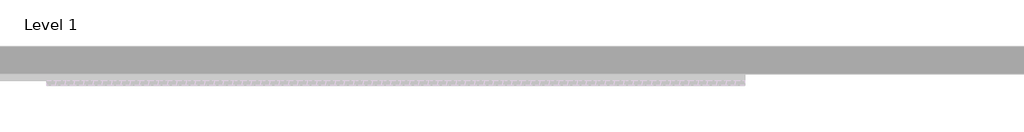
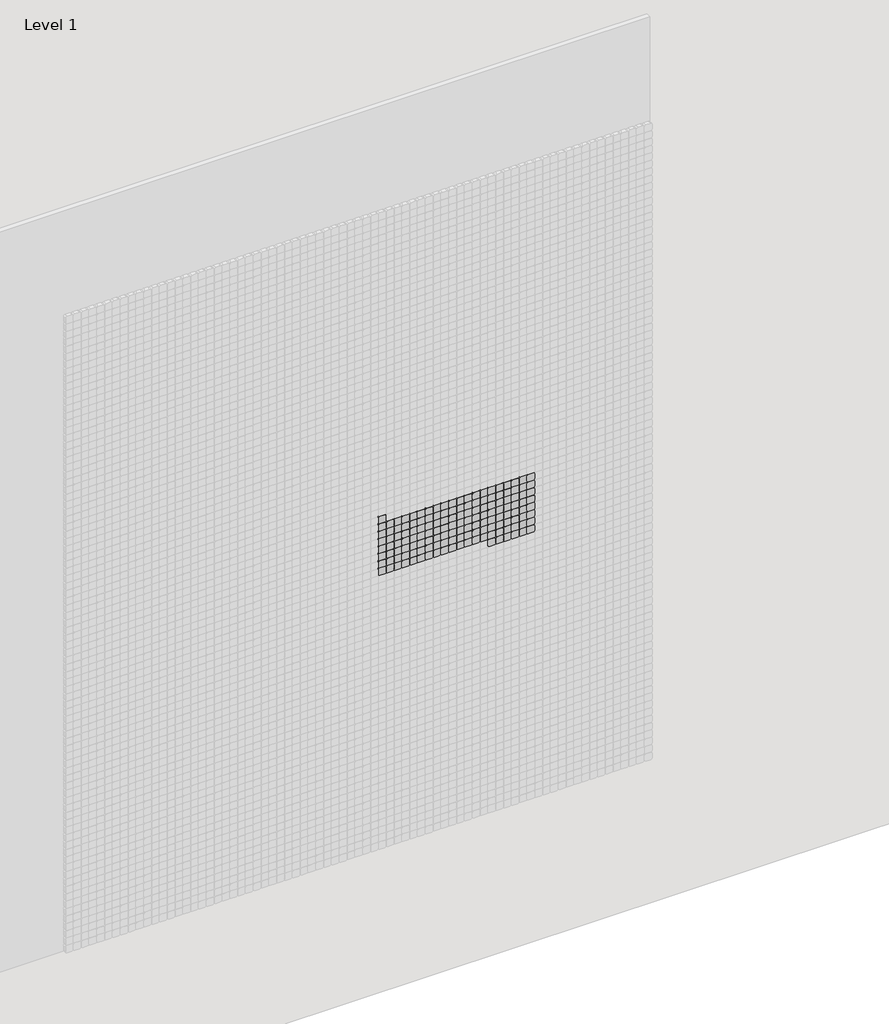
# One storey, part 56 of 71: 147 proxies.
"""IFC4 building model written with IfcOpenShell, lengths in millimetres."""

from ifc_helpers import new_model, si_unit, origin, place, context, project, spatial, transform, mapped, element, save
from components import generic_models_afde289c

model = new_model("IFC4")

# Units and contexts
model_context = context("Model", 3, world=origin())
ifc_project = project(units=[si_unit("LENGTHUNIT", "METRE", prefix="MILLI")], contexts=[model_context])

# Site, building, storey
site = spatial("IfcSite", under=ifc_project)
building = spatial("IfcBuilding", under=site)
storey = spatial("IfcBuildingStorey", under=building, Name="Level 1", Elevation=0.0)

# Proxies
placement = place(None, origin())
generic_models_shape = generic_models_afde289c(model_context)
element("IfcBuildingElementProxy", 1, Name="Pixel_M : Pixel_M", ObjectType="Pixel_M : Pixel_M", at=placement, inside=storey, context=model_context, shape_type="MappedRepresentation", body=[
    mapped(generic_models_shape, transform((8012.4280941, -75.0, 3216.3566215), x_axis=(1.0, 0.0, 0.0), y_axis=(0.0, 0.0, 1.0), z_axis=(0.0, -1.0, 0.0))),
])
element("IfcBuildingElementProxy", 2, Name="Pixel_M : Pixel_M", ObjectType="Pixel_M : Pixel_M", at=placement, inside=storey, context=model_context, shape_type="MappedRepresentation", body=[
    mapped(generic_models_shape, transform((8962.4280941, -75.0, 3166.3566215), x_axis=(1.0, 0.0, 0.0), y_axis=(0.0, 0.0, 1.0), z_axis=(0.0, -1.0, 0.0))),
])
element("IfcBuildingElementProxy", 3, Name="Pixel_M : Pixel_M", ObjectType="Pixel_M : Pixel_M", at=placement, inside=storey, context=model_context, shape_type="MappedRepresentation", body=[
    mapped(generic_models_shape, transform((8912.4280941, -75.0, 3166.3566215), x_axis=(1.0, 0.0, 0.0), y_axis=(0.0, 0.0, 1.0), z_axis=(0.0, -1.0, 0.0))),
])
element("IfcBuildingElementProxy", 4, Name="Pixel_M : Pixel_M", ObjectType="Pixel_M : Pixel_M", at=placement, inside=storey, context=model_context, shape_type="MappedRepresentation", body=[
    mapped(generic_models_shape, transform((8862.4280941, -75.0, 3166.3566215), x_axis=(1.0, 0.0, 0.0), y_axis=(0.0, 0.0, 1.0), z_axis=(0.0, -1.0, 0.0))),
])
element("IfcBuildingElementProxy", 5, Name="Pixel_M : Pixel_M", ObjectType="Pixel_M : Pixel_M", at=placement, inside=storey, context=model_context, shape_type="MappedRepresentation", body=[
    mapped(generic_models_shape, transform((8812.4280941, -75.0, 3166.3566215), x_axis=(1.0, 0.0, 0.0), y_axis=(0.0, 0.0, 1.0), z_axis=(0.0, -1.0, 0.0))),
])
element("IfcBuildingElementProxy", 6, Name="Pixel_M : Pixel_M", ObjectType="Pixel_M : Pixel_M", at=placement, inside=storey, context=model_context, shape_type="MappedRepresentation", body=[
    mapped(generic_models_shape, transform((8762.4280941, -75.0, 3166.3566215), x_axis=(1.0, 0.0, 0.0), y_axis=(0.0, 0.0, 1.0), z_axis=(0.0, -1.0, 0.0))),
])
element("IfcBuildingElementProxy", 7, Name="Pixel_M : Pixel_M", ObjectType="Pixel_M : Pixel_M", at=placement, inside=storey, context=model_context, shape_type="MappedRepresentation", body=[
    mapped(generic_models_shape, transform((8712.4280941, -75.0, 3166.3566215), x_axis=(1.0, 0.0, 0.0), y_axis=(0.0, 0.0, 1.0), z_axis=(0.0, -1.0, 0.0))),
])
element("IfcBuildingElementProxy", 8, Name="Pixel_M : Pixel_M", ObjectType="Pixel_M : Pixel_M", at=placement, inside=storey, context=model_context, shape_type="MappedRepresentation", body=[
    mapped(generic_models_shape, transform((8662.4280941, -75.0, 3166.3566215), x_axis=(1.0, 0.0, 0.0), y_axis=(0.0, 0.0, 1.0), z_axis=(0.0, -1.0, 0.0))),
])
element("IfcBuildingElementProxy", 9, Name="Pixel_M : Pixel_M", ObjectType="Pixel_M : Pixel_M", at=placement, inside=storey, context=model_context, shape_type="MappedRepresentation", body=[
    mapped(generic_models_shape, transform((8612.4280941, -75.0, 3166.3566215), x_axis=(1.0, 0.0, 0.0), y_axis=(0.0, 0.0, 1.0), z_axis=(0.0, -1.0, 0.0))),
])
element("IfcBuildingElementProxy", 10, Name="Pixel_M : Pixel_M", ObjectType="Pixel_M : Pixel_M", at=placement, inside=storey, context=model_context, shape_type="MappedRepresentation", body=[
    mapped(generic_models_shape, transform((8562.4280941, -75.0, 3166.3566215), x_axis=(1.0, 0.0, 0.0), y_axis=(0.0, 0.0, 1.0), z_axis=(0.0, -1.0, 0.0))),
])
element("IfcBuildingElementProxy", 11, Name="Pixel_M : Pixel_M", ObjectType="Pixel_M : Pixel_M", at=placement, inside=storey, context=model_context, shape_type="MappedRepresentation", body=[
    mapped(generic_models_shape, transform((8512.4280941, -75.0, 3166.3566215), x_axis=(1.0, 0.0, 0.0), y_axis=(0.0, 0.0, 1.0), z_axis=(0.0, -1.0, 0.0))),
])
element("IfcBuildingElementProxy", 12, Name="Pixel_M : Pixel_M", ObjectType="Pixel_M : Pixel_M", at=placement, inside=storey, context=model_context, shape_type="MappedRepresentation", body=[
    mapped(generic_models_shape, transform((8462.4280941, -75.0, 3166.3566215), x_axis=(1.0, 0.0, 0.0), y_axis=(0.0, 0.0, 1.0), z_axis=(0.0, -1.0, 0.0))),
])
element("IfcBuildingElementProxy", 13, Name="Pixel_M : Pixel_M", ObjectType="Pixel_M : Pixel_M", at=placement, inside=storey, context=model_context, shape_type="MappedRepresentation", body=[
    mapped(generic_models_shape, transform((8412.4280941, -75.0, 3166.3566215), x_axis=(1.0, 0.0, 0.0), y_axis=(0.0, 0.0, 1.0), z_axis=(0.0, -1.0, 0.0))),
])
element("IfcBuildingElementProxy", 14, Name="Pixel_M : Pixel_M", ObjectType="Pixel_M : Pixel_M", at=placement, inside=storey, context=model_context, shape_type="MappedRepresentation", body=[
    mapped(generic_models_shape, transform((8362.4280941, -75.0, 3166.3566215), x_axis=(1.0, 0.0, 0.0), y_axis=(0.0, 0.0, 1.0), z_axis=(0.0, -1.0, 0.0))),
])
element("IfcBuildingElementProxy", 15, Name="Pixel_M : Pixel_M", ObjectType="Pixel_M : Pixel_M", at=placement, inside=storey, context=model_context, shape_type="MappedRepresentation", body=[
    mapped(generic_models_shape, transform((8312.4280941, -75.0, 3166.3566215), x_axis=(1.0, 0.0, 0.0), y_axis=(0.0, 0.0, 1.0), z_axis=(0.0, -1.0, 0.0))),
])
element("IfcBuildingElementProxy", 16, Name="Pixel_M : Pixel_M", ObjectType="Pixel_M : Pixel_M", at=placement, inside=storey, context=model_context, shape_type="MappedRepresentation", body=[
    mapped(generic_models_shape, transform((8262.4280941, -75.0, 3166.3566215), x_axis=(1.0, 0.0, 0.0), y_axis=(0.0, 0.0, 1.0), z_axis=(0.0, -1.0, 0.0))),
])
element("IfcBuildingElementProxy", 17, Name="Pixel_M : Pixel_M", ObjectType="Pixel_M : Pixel_M", at=placement, inside=storey, context=model_context, shape_type="MappedRepresentation", body=[
    mapped(generic_models_shape, transform((8212.4280941, -75.0, 3166.3566215), x_axis=(1.0, 0.0, 0.0), y_axis=(0.0, 0.0, 1.0), z_axis=(0.0, -1.0, 0.0))),
])
element("IfcBuildingElementProxy", 18, Name="Pixel_M : Pixel_M", ObjectType="Pixel_M : Pixel_M", at=placement, inside=storey, context=model_context, shape_type="MappedRepresentation", body=[
    mapped(generic_models_shape, transform((8162.4280941, -75.0, 3166.3566215), x_axis=(1.0, 0.0, 0.0), y_axis=(0.0, 0.0, 1.0), z_axis=(0.0, -1.0, 0.0))),
])
element("IfcBuildingElementProxy", 19, Name="Pixel_M : Pixel_M", ObjectType="Pixel_M : Pixel_M", at=placement, inside=storey, context=model_context, shape_type="MappedRepresentation", body=[
    mapped(generic_models_shape, transform((8112.4280941, -75.0, 3166.3566215), x_axis=(1.0, 0.0, 0.0), y_axis=(0.0, 0.0, 1.0), z_axis=(0.0, -1.0, 0.0))),
])
element("IfcBuildingElementProxy", 20, Name="Pixel_M : Pixel_M", ObjectType="Pixel_M : Pixel_M", at=placement, inside=storey, context=model_context, shape_type="MappedRepresentation", body=[
    mapped(generic_models_shape, transform((8062.4280941, -75.0, 3166.3566215), x_axis=(1.0, 0.0, 0.0), y_axis=(0.0, 0.0, 1.0), z_axis=(0.0, -1.0, 0.0))),
])
element("IfcBuildingElementProxy", 21, Name="Pixel_M : Pixel_M", ObjectType="Pixel_M : Pixel_M", at=placement, inside=storey, context=model_context, shape_type="MappedRepresentation", body=[
    mapped(generic_models_shape, transform((8012.4280941, -75.0, 3166.3566215), x_axis=(1.0, 0.0, 0.0), y_axis=(0.0, 0.0, 1.0), z_axis=(0.0, -1.0, 0.0))),
])
element("IfcBuildingElementProxy", 22, Name="Pixel_M : Pixel_M", ObjectType="Pixel_M : Pixel_M", at=placement, inside=storey, context=model_context, shape_type="MappedRepresentation", body=[
    mapped(generic_models_shape, transform((8962.4280941, -75.0, 3116.3566215), x_axis=(1.0, 0.0, 0.0), y_axis=(0.0, 0.0, 1.0), z_axis=(0.0, -1.0, 0.0))),
])
element("IfcBuildingElementProxy", 23, Name="Pixel_M : Pixel_M", ObjectType="Pixel_M : Pixel_M", at=placement, inside=storey, context=model_context, shape_type="MappedRepresentation", body=[
    mapped(generic_models_shape, transform((8912.4280941, -75.0, 3116.3566215), x_axis=(1.0, 0.0, 0.0), y_axis=(0.0, 0.0, 1.0), z_axis=(0.0, -1.0, 0.0))),
])
element("IfcBuildingElementProxy", 24, Name="Pixel_M : Pixel_M", ObjectType="Pixel_M : Pixel_M", at=placement, inside=storey, context=model_context, shape_type="MappedRepresentation", body=[
    mapped(generic_models_shape, transform((8862.4280941, -75.0, 3116.3566215), x_axis=(1.0, 0.0, 0.0), y_axis=(0.0, 0.0, 1.0), z_axis=(0.0, -1.0, 0.0))),
])
element("IfcBuildingElementProxy", 25, Name="Pixel_M : Pixel_M", ObjectType="Pixel_M : Pixel_M", at=placement, inside=storey, context=model_context, shape_type="MappedRepresentation", body=[
    mapped(generic_models_shape, transform((8812.4280941, -75.0, 3116.3566215), x_axis=(1.0, 0.0, 0.0), y_axis=(0.0, 0.0, 1.0), z_axis=(0.0, -1.0, 0.0))),
])
element("IfcBuildingElementProxy", 26, Name="Pixel_M : Pixel_M", ObjectType="Pixel_M : Pixel_M", at=placement, inside=storey, context=model_context, shape_type="MappedRepresentation", body=[
    mapped(generic_models_shape, transform((8762.4280941, -75.0, 3116.3566215), x_axis=(1.0, 0.0, 0.0), y_axis=(0.0, 0.0, 1.0), z_axis=(0.0, -1.0, 0.0))),
])
element("IfcBuildingElementProxy", 27, Name="Pixel_M : Pixel_M", ObjectType="Pixel_M : Pixel_M", at=placement, inside=storey, context=model_context, shape_type="MappedRepresentation", body=[
    mapped(generic_models_shape, transform((8712.4280941, -75.0, 3116.3566215), x_axis=(1.0, 0.0, 0.0), y_axis=(0.0, 0.0, 1.0), z_axis=(0.0, -1.0, 0.0))),
])
element("IfcBuildingElementProxy", 28, Name="Pixel_M : Pixel_M", ObjectType="Pixel_M : Pixel_M", at=placement, inside=storey, context=model_context, shape_type="MappedRepresentation", body=[
    mapped(generic_models_shape, transform((8662.4280941, -75.0, 3116.3566215), x_axis=(1.0, 0.0, 0.0), y_axis=(0.0, 0.0, 1.0), z_axis=(0.0, -1.0, 0.0))),
])
element("IfcBuildingElementProxy", 29, Name="Pixel_M : Pixel_M", ObjectType="Pixel_M : Pixel_M", at=placement, inside=storey, context=model_context, shape_type="MappedRepresentation", body=[
    mapped(generic_models_shape, transform((8612.4280941, -75.0, 3116.3566215), x_axis=(1.0, 0.0, 0.0), y_axis=(0.0, 0.0, 1.0), z_axis=(0.0, -1.0, 0.0))),
])
element("IfcBuildingElementProxy", 30, Name="Pixel_M : Pixel_M", ObjectType="Pixel_M : Pixel_M", at=placement, inside=storey, context=model_context, shape_type="MappedRepresentation", body=[
    mapped(generic_models_shape, transform((8562.4280941, -75.0, 3116.3566215), x_axis=(1.0, 0.0, 0.0), y_axis=(0.0, 0.0, 1.0), z_axis=(0.0, -1.0, 0.0))),
])
element("IfcBuildingElementProxy", 31, Name="Pixel_M : Pixel_M", ObjectType="Pixel_M : Pixel_M", at=placement, inside=storey, context=model_context, shape_type="MappedRepresentation", body=[
    mapped(generic_models_shape, transform((8512.4280941, -75.0, 3116.3566215), x_axis=(1.0, 0.0, 0.0), y_axis=(0.0, 0.0, 1.0), z_axis=(0.0, -1.0, 0.0))),
])
element("IfcBuildingElementProxy", 32, Name="Pixel_M : Pixel_M", ObjectType="Pixel_M : Pixel_M", at=placement, inside=storey, context=model_context, shape_type="MappedRepresentation", body=[
    mapped(generic_models_shape, transform((8462.4280941, -75.0, 3116.3566215), x_axis=(1.0, 0.0, 0.0), y_axis=(0.0, 0.0, 1.0), z_axis=(0.0, -1.0, 0.0))),
])
element("IfcBuildingElementProxy", 33, Name="Pixel_M : Pixel_M", ObjectType="Pixel_M : Pixel_M", at=placement, inside=storey, context=model_context, shape_type="MappedRepresentation", body=[
    mapped(generic_models_shape, transform((8412.4280941, -75.0, 3116.3566215), x_axis=(1.0, 0.0, 0.0), y_axis=(0.0, 0.0, 1.0), z_axis=(0.0, -1.0, 0.0))),
])
element("IfcBuildingElementProxy", 34, Name="Pixel_M : Pixel_M", ObjectType="Pixel_M : Pixel_M", at=placement, inside=storey, context=model_context, shape_type="MappedRepresentation", body=[
    mapped(generic_models_shape, transform((8362.4280941, -75.0, 3116.3566215), x_axis=(1.0, 0.0, 0.0), y_axis=(0.0, 0.0, 1.0), z_axis=(0.0, -1.0, 0.0))),
])
element("IfcBuildingElementProxy", 35, Name="Pixel_M : Pixel_M", ObjectType="Pixel_M : Pixel_M", at=placement, inside=storey, context=model_context, shape_type="MappedRepresentation", body=[
    mapped(generic_models_shape, transform((8312.4280941, -75.0, 3116.3566215), x_axis=(1.0, 0.0, 0.0), y_axis=(0.0, 0.0, 1.0), z_axis=(0.0, -1.0, 0.0))),
])
element("IfcBuildingElementProxy", 36, Name="Pixel_M : Pixel_M", ObjectType="Pixel_M : Pixel_M", at=placement, inside=storey, context=model_context, shape_type="MappedRepresentation", body=[
    mapped(generic_models_shape, transform((8262.4280941, -75.0, 3116.3566215), x_axis=(1.0, 0.0, 0.0), y_axis=(0.0, 0.0, 1.0), z_axis=(0.0, -1.0, 0.0))),
])
element("IfcBuildingElementProxy", 37, Name="Pixel_M : Pixel_M", ObjectType="Pixel_M : Pixel_M", at=placement, inside=storey, context=model_context, shape_type="MappedRepresentation", body=[
    mapped(generic_models_shape, transform((8212.4280941, -75.0, 3116.3566215), x_axis=(1.0, 0.0, 0.0), y_axis=(0.0, 0.0, 1.0), z_axis=(0.0, -1.0, 0.0))),
])
element("IfcBuildingElementProxy", 38, Name="Pixel_M : Pixel_M", ObjectType="Pixel_M : Pixel_M", at=placement, inside=storey, context=model_context, shape_type="MappedRepresentation", body=[
    mapped(generic_models_shape, transform((8162.4280941, -75.0, 3116.3566215), x_axis=(1.0, 0.0, 0.0), y_axis=(0.0, 0.0, 1.0), z_axis=(0.0, -1.0, 0.0))),
])
element("IfcBuildingElementProxy", 39, Name="Pixel_M : Pixel_M", ObjectType="Pixel_M : Pixel_M", at=placement, inside=storey, context=model_context, shape_type="MappedRepresentation", body=[
    mapped(generic_models_shape, transform((8112.4280941, -75.0, 3116.3566215), x_axis=(1.0, 0.0, 0.0), y_axis=(0.0, 0.0, 1.0), z_axis=(0.0, -1.0, 0.0))),
])
element("IfcBuildingElementProxy", 40, Name="Pixel_M : Pixel_M", ObjectType="Pixel_M : Pixel_M", at=placement, inside=storey, context=model_context, shape_type="MappedRepresentation", body=[
    mapped(generic_models_shape, transform((8062.4280941, -75.0, 3116.3566215), x_axis=(1.0, 0.0, 0.0), y_axis=(0.0, 0.0, 1.0), z_axis=(0.0, -1.0, 0.0))),
])
element("IfcBuildingElementProxy", 41, Name="Pixel_M : Pixel_M", ObjectType="Pixel_M : Pixel_M", at=placement, inside=storey, context=model_context, shape_type="MappedRepresentation", body=[
    mapped(generic_models_shape, transform((8012.4280941, -75.0, 3116.3566215), x_axis=(1.0, 0.0, 0.0), y_axis=(0.0, 0.0, 1.0), z_axis=(0.0, -1.0, 0.0))),
])
element("IfcBuildingElementProxy", 42, Name="Pixel_M : Pixel_M", ObjectType="Pixel_M : Pixel_M", at=placement, inside=storey, context=model_context, shape_type="MappedRepresentation", body=[
    mapped(generic_models_shape, transform((8962.4280941, -75.0, 3066.3566215), x_axis=(1.0, 0.0, 0.0), y_axis=(0.0, 0.0, 1.0), z_axis=(0.0, -1.0, 0.0))),
])
element("IfcBuildingElementProxy", 43, Name="Pixel_M : Pixel_M", ObjectType="Pixel_M : Pixel_M", at=placement, inside=storey, context=model_context, shape_type="MappedRepresentation", body=[
    mapped(generic_models_shape, transform((8912.4280941, -75.0, 3066.3566215), x_axis=(1.0, 0.0, 0.0), y_axis=(0.0, 0.0, 1.0), z_axis=(0.0, -1.0, 0.0))),
])
element("IfcBuildingElementProxy", 44, Name="Pixel_M : Pixel_M", ObjectType="Pixel_M : Pixel_M", at=placement, inside=storey, context=model_context, shape_type="MappedRepresentation", body=[
    mapped(generic_models_shape, transform((8862.4280941, -75.0, 3066.3566215), x_axis=(1.0, 0.0, 0.0), y_axis=(0.0, 0.0, 1.0), z_axis=(0.0, -1.0, 0.0))),
])
element("IfcBuildingElementProxy", 45, Name="Pixel_M : Pixel_M", ObjectType="Pixel_M : Pixel_M", at=placement, inside=storey, context=model_context, shape_type="MappedRepresentation", body=[
    mapped(generic_models_shape, transform((8812.4280941, -75.0, 3066.3566215), x_axis=(1.0, 0.0, 0.0), y_axis=(0.0, 0.0, 1.0), z_axis=(0.0, -1.0, 0.0))),
])
element("IfcBuildingElementProxy", 46, Name="Pixel_M : Pixel_M", ObjectType="Pixel_M : Pixel_M", at=placement, inside=storey, context=model_context, shape_type="MappedRepresentation", body=[
    mapped(generic_models_shape, transform((8762.4280941, -75.0, 3066.3566215), x_axis=(1.0, 0.0, 0.0), y_axis=(0.0, 0.0, 1.0), z_axis=(0.0, -1.0, 0.0))),
])
element("IfcBuildingElementProxy", 47, Name="Pixel_M : Pixel_M", ObjectType="Pixel_M : Pixel_M", at=placement, inside=storey, context=model_context, shape_type="MappedRepresentation", body=[
    mapped(generic_models_shape, transform((8712.4280941, -75.0, 3066.3566215), x_axis=(1.0, 0.0, 0.0), y_axis=(0.0, 0.0, 1.0), z_axis=(0.0, -1.0, 0.0))),
])
element("IfcBuildingElementProxy", 48, Name="Pixel_M : Pixel_M", ObjectType="Pixel_M : Pixel_M", at=placement, inside=storey, context=model_context, shape_type="MappedRepresentation", body=[
    mapped(generic_models_shape, transform((8662.4280941, -75.0, 3066.3566215), x_axis=(1.0, 0.0, 0.0), y_axis=(0.0, 0.0, 1.0), z_axis=(0.0, -1.0, 0.0))),
])
element("IfcBuildingElementProxy", 49, Name="Pixel_M : Pixel_M", ObjectType="Pixel_M : Pixel_M", at=placement, inside=storey, context=model_context, shape_type="MappedRepresentation", body=[
    mapped(generic_models_shape, transform((8612.4280941, -75.0, 3066.3566215), x_axis=(1.0, 0.0, 0.0), y_axis=(0.0, 0.0, 1.0), z_axis=(0.0, -1.0, 0.0))),
])
element("IfcBuildingElementProxy", 50, Name="Pixel_M : Pixel_M", ObjectType="Pixel_M : Pixel_M", at=placement, inside=storey, context=model_context, shape_type="MappedRepresentation", body=[
    mapped(generic_models_shape, transform((8562.4280941, -75.0, 3066.3566215), x_axis=(1.0, 0.0, 0.0), y_axis=(0.0, 0.0, 1.0), z_axis=(0.0, -1.0, 0.0))),
])
element("IfcBuildingElementProxy", 51, Name="Pixel_M : Pixel_M", ObjectType="Pixel_M : Pixel_M", at=placement, inside=storey, context=model_context, shape_type="MappedRepresentation", body=[
    mapped(generic_models_shape, transform((8512.4280941, -75.0, 3066.3566215), x_axis=(1.0, 0.0, 0.0), y_axis=(0.0, 0.0, 1.0), z_axis=(0.0, -1.0, 0.0))),
])
element("IfcBuildingElementProxy", 52, Name="Pixel_M : Pixel_M", ObjectType="Pixel_M : Pixel_M", at=placement, inside=storey, context=model_context, shape_type="MappedRepresentation", body=[
    mapped(generic_models_shape, transform((8462.4280941, -75.0, 3066.3566215), x_axis=(1.0, 0.0, 0.0), y_axis=(0.0, 0.0, 1.0), z_axis=(0.0, -1.0, 0.0))),
])
element("IfcBuildingElementProxy", 53, Name="Pixel_M : Pixel_M", ObjectType="Pixel_M : Pixel_M", at=placement, inside=storey, context=model_context, shape_type="MappedRepresentation", body=[
    mapped(generic_models_shape, transform((8412.4280941, -75.0, 3066.3566215), x_axis=(1.0, 0.0, 0.0), y_axis=(0.0, 0.0, 1.0), z_axis=(0.0, -1.0, 0.0))),
])
element("IfcBuildingElementProxy", 54, Name="Pixel_M : Pixel_M", ObjectType="Pixel_M : Pixel_M", at=placement, inside=storey, context=model_context, shape_type="MappedRepresentation", body=[
    mapped(generic_models_shape, transform((8362.4280941, -75.0, 3066.3566215), x_axis=(1.0, 0.0, 0.0), y_axis=(0.0, 0.0, 1.0), z_axis=(0.0, -1.0, 0.0))),
])
element("IfcBuildingElementProxy", 55, Name="Pixel_M : Pixel_M", ObjectType="Pixel_M : Pixel_M", at=placement, inside=storey, context=model_context, shape_type="MappedRepresentation", body=[
    mapped(generic_models_shape, transform((8312.4280941, -75.0, 3066.3566215), x_axis=(1.0, 0.0, 0.0), y_axis=(0.0, 0.0, 1.0), z_axis=(0.0, -1.0, 0.0))),
])
element("IfcBuildingElementProxy", 56, Name="Pixel_M : Pixel_M", ObjectType="Pixel_M : Pixel_M", at=placement, inside=storey, context=model_context, shape_type="MappedRepresentation", body=[
    mapped(generic_models_shape, transform((8262.4280941, -75.0, 3066.3566215), x_axis=(1.0, 0.0, 0.0), y_axis=(0.0, 0.0, 1.0), z_axis=(0.0, -1.0, 0.0))),
])
element("IfcBuildingElementProxy", 57, Name="Pixel_M : Pixel_M", ObjectType="Pixel_M : Pixel_M", at=placement, inside=storey, context=model_context, shape_type="MappedRepresentation", body=[
    mapped(generic_models_shape, transform((8212.4280941, -75.0, 3066.3566215), x_axis=(1.0, 0.0, 0.0), y_axis=(0.0, 0.0, 1.0), z_axis=(0.0, -1.0, 0.0))),
])
element("IfcBuildingElementProxy", 58, Name="Pixel_M : Pixel_M", ObjectType="Pixel_M : Pixel_M", at=placement, inside=storey, context=model_context, shape_type="MappedRepresentation", body=[
    mapped(generic_models_shape, transform((8162.4280941, -75.0, 3066.3566215), x_axis=(1.0, 0.0, 0.0), y_axis=(0.0, 0.0, 1.0), z_axis=(0.0, -1.0, 0.0))),
])
element("IfcBuildingElementProxy", 59, Name="Pixel_M : Pixel_M", ObjectType="Pixel_M : Pixel_M", at=placement, inside=storey, context=model_context, shape_type="MappedRepresentation", body=[
    mapped(generic_models_shape, transform((8112.4280941, -75.0, 3066.3566215), x_axis=(1.0, 0.0, 0.0), y_axis=(0.0, 0.0, 1.0), z_axis=(0.0, -1.0, 0.0))),
])
element("IfcBuildingElementProxy", 60, Name="Pixel_M : Pixel_M", ObjectType="Pixel_M : Pixel_M", at=placement, inside=storey, context=model_context, shape_type="MappedRepresentation", body=[
    mapped(generic_models_shape, transform((8062.4280941, -75.0, 3066.3566215), x_axis=(1.0, 0.0, 0.0), y_axis=(0.0, 0.0, 1.0), z_axis=(0.0, -1.0, 0.0))),
])
element("IfcBuildingElementProxy", 61, Name="Pixel_M : Pixel_M", ObjectType="Pixel_M : Pixel_M", at=placement, inside=storey, context=model_context, shape_type="MappedRepresentation", body=[
    mapped(generic_models_shape, transform((8012.4280941, -75.0, 3066.3566215), x_axis=(1.0, 0.0, 0.0), y_axis=(0.0, 0.0, 1.0), z_axis=(0.0, -1.0, 0.0))),
])
element("IfcBuildingElementProxy", 62, Name="Pixel_M : Pixel_M", ObjectType="Pixel_M : Pixel_M", at=placement, inside=storey, context=model_context, shape_type="MappedRepresentation", body=[
    mapped(generic_models_shape, transform((8962.4280941, -75.0, 3016.3566215), x_axis=(1.0, 0.0, 0.0), y_axis=(0.0, 0.0, 1.0), z_axis=(0.0, -1.0, 0.0))),
])
element("IfcBuildingElementProxy", 63, Name="Pixel_M : Pixel_M", ObjectType="Pixel_M : Pixel_M", at=placement, inside=storey, context=model_context, shape_type="MappedRepresentation", body=[
    mapped(generic_models_shape, transform((8912.4280941, -75.0, 3016.3566215), x_axis=(1.0, 0.0, 0.0), y_axis=(0.0, 0.0, 1.0), z_axis=(0.0, -1.0, 0.0))),
])
element("IfcBuildingElementProxy", 64, Name="Pixel_M : Pixel_M", ObjectType="Pixel_M : Pixel_M", at=placement, inside=storey, context=model_context, shape_type="MappedRepresentation", body=[
    mapped(generic_models_shape, transform((8862.4280941, -75.0, 3016.3566215), x_axis=(1.0, 0.0, 0.0), y_axis=(0.0, 0.0, 1.0), z_axis=(0.0, -1.0, 0.0))),
])
element("IfcBuildingElementProxy", 65, Name="Pixel_M : Pixel_M", ObjectType="Pixel_M : Pixel_M", at=placement, inside=storey, context=model_context, shape_type="MappedRepresentation", body=[
    mapped(generic_models_shape, transform((8812.4280941, -75.0, 3016.3566215), x_axis=(1.0, 0.0, 0.0), y_axis=(0.0, 0.0, 1.0), z_axis=(0.0, -1.0, 0.0))),
])
element("IfcBuildingElementProxy", 66, Name="Pixel_M : Pixel_M", ObjectType="Pixel_M : Pixel_M", at=placement, inside=storey, context=model_context, shape_type="MappedRepresentation", body=[
    mapped(generic_models_shape, transform((8762.4280941, -75.0, 3016.3566215), x_axis=(1.0, 0.0, 0.0), y_axis=(0.0, 0.0, 1.0), z_axis=(0.0, -1.0, 0.0))),
])
element("IfcBuildingElementProxy", 67, Name="Pixel_M : Pixel_M", ObjectType="Pixel_M : Pixel_M", at=placement, inside=storey, context=model_context, shape_type="MappedRepresentation", body=[
    mapped(generic_models_shape, transform((8712.4280941, -75.0, 3016.3566215), x_axis=(1.0, 0.0, 0.0), y_axis=(0.0, 0.0, 1.0), z_axis=(0.0, -1.0, 0.0))),
])
element("IfcBuildingElementProxy", 68, Name="Pixel_M : Pixel_M", ObjectType="Pixel_M : Pixel_M", at=placement, inside=storey, context=model_context, shape_type="MappedRepresentation", body=[
    mapped(generic_models_shape, transform((8662.4280941, -75.0, 3016.3566215), x_axis=(1.0, 0.0, 0.0), y_axis=(0.0, 0.0, 1.0), z_axis=(0.0, -1.0, 0.0))),
])
element("IfcBuildingElementProxy", 69, Name="Pixel_M : Pixel_M", ObjectType="Pixel_M : Pixel_M", at=placement, inside=storey, context=model_context, shape_type="MappedRepresentation", body=[
    mapped(generic_models_shape, transform((8612.4280941, -75.0, 3016.3566215), x_axis=(1.0, 0.0, 0.0), y_axis=(0.0, 0.0, 1.0), z_axis=(0.0, -1.0, 0.0))),
])
element("IfcBuildingElementProxy", 70, Name="Pixel_M : Pixel_M", ObjectType="Pixel_M : Pixel_M", at=placement, inside=storey, context=model_context, shape_type="MappedRepresentation", body=[
    mapped(generic_models_shape, transform((8562.4280941, -75.0, 3016.3566215), x_axis=(1.0, 0.0, 0.0), y_axis=(0.0, 0.0, 1.0), z_axis=(0.0, -1.0, 0.0))),
])
element("IfcBuildingElementProxy", 71, Name="Pixel_M : Pixel_M", ObjectType="Pixel_M : Pixel_M", at=placement, inside=storey, context=model_context, shape_type="MappedRepresentation", body=[
    mapped(generic_models_shape, transform((8512.4280941, -75.0, 3016.3566215), x_axis=(1.0, 0.0, 0.0), y_axis=(0.0, 0.0, 1.0), z_axis=(0.0, -1.0, 0.0))),
])
element("IfcBuildingElementProxy", 72, Name="Pixel_M : Pixel_M", ObjectType="Pixel_M : Pixel_M", at=placement, inside=storey, context=model_context, shape_type="MappedRepresentation", body=[
    mapped(generic_models_shape, transform((8462.4280941, -75.0, 3016.3566215), x_axis=(1.0, 0.0, 0.0), y_axis=(0.0, 0.0, 1.0), z_axis=(0.0, -1.0, 0.0))),
])
element("IfcBuildingElementProxy", 73, Name="Pixel_M : Pixel_M", ObjectType="Pixel_M : Pixel_M", at=placement, inside=storey, context=model_context, shape_type="MappedRepresentation", body=[
    mapped(generic_models_shape, transform((8412.4280941, -75.0, 3016.3566215), x_axis=(1.0, 0.0, 0.0), y_axis=(0.0, 0.0, 1.0), z_axis=(0.0, -1.0, 0.0))),
])
element("IfcBuildingElementProxy", 74, Name="Pixel_M : Pixel_M", ObjectType="Pixel_M : Pixel_M", at=placement, inside=storey, context=model_context, shape_type="MappedRepresentation", body=[
    mapped(generic_models_shape, transform((8362.4280941, -75.0, 3016.3566215), x_axis=(1.0, 0.0, 0.0), y_axis=(0.0, 0.0, 1.0), z_axis=(0.0, -1.0, 0.0))),
])
element("IfcBuildingElementProxy", 75, Name="Pixel_M : Pixel_M", ObjectType="Pixel_M : Pixel_M", at=placement, inside=storey, context=model_context, shape_type="MappedRepresentation", body=[
    mapped(generic_models_shape, transform((8312.4280941, -75.0, 3016.3566215), x_axis=(1.0, 0.0, 0.0), y_axis=(0.0, 0.0, 1.0), z_axis=(0.0, -1.0, 0.0))),
])
element("IfcBuildingElementProxy", 76, Name="Pixel_M : Pixel_M", ObjectType="Pixel_M : Pixel_M", at=placement, inside=storey, context=model_context, shape_type="MappedRepresentation", body=[
    mapped(generic_models_shape, transform((8262.4280941, -75.0, 3016.3566215), x_axis=(1.0, 0.0, 0.0), y_axis=(0.0, 0.0, 1.0), z_axis=(0.0, -1.0, 0.0))),
])
element("IfcBuildingElementProxy", 77, Name="Pixel_M : Pixel_M", ObjectType="Pixel_M : Pixel_M", at=placement, inside=storey, context=model_context, shape_type="MappedRepresentation", body=[
    mapped(generic_models_shape, transform((8212.4280941, -75.0, 3016.3566215), x_axis=(1.0, 0.0, 0.0), y_axis=(0.0, 0.0, 1.0), z_axis=(0.0, -1.0, 0.0))),
])
element("IfcBuildingElementProxy", 78, Name="Pixel_M : Pixel_M", ObjectType="Pixel_M : Pixel_M", at=placement, inside=storey, context=model_context, shape_type="MappedRepresentation", body=[
    mapped(generic_models_shape, transform((8162.4280941, -75.0, 3016.3566215), x_axis=(1.0, 0.0, 0.0), y_axis=(0.0, 0.0, 1.0), z_axis=(0.0, -1.0, 0.0))),
])
element("IfcBuildingElementProxy", 79, Name="Pixel_M : Pixel_M", ObjectType="Pixel_M : Pixel_M", at=placement, inside=storey, context=model_context, shape_type="MappedRepresentation", body=[
    mapped(generic_models_shape, transform((8112.4280941, -75.0, 3016.3566215), x_axis=(1.0, 0.0, 0.0), y_axis=(0.0, 0.0, 1.0), z_axis=(0.0, -1.0, 0.0))),
])
element("IfcBuildingElementProxy", 80, Name="Pixel_M : Pixel_M", ObjectType="Pixel_M : Pixel_M", at=placement, inside=storey, context=model_context, shape_type="MappedRepresentation", body=[
    mapped(generic_models_shape, transform((8062.4280941, -75.0, 3016.3566215), x_axis=(1.0, 0.0, 0.0), y_axis=(0.0, 0.0, 1.0), z_axis=(0.0, -1.0, 0.0))),
])
element("IfcBuildingElementProxy", 81, Name="Pixel_M : Pixel_M", ObjectType="Pixel_M : Pixel_M", at=placement, inside=storey, context=model_context, shape_type="MappedRepresentation", body=[
    mapped(generic_models_shape, transform((8012.4280941, -75.0, 3016.3566215), x_axis=(1.0, 0.0, 0.0), y_axis=(0.0, 0.0, 1.0), z_axis=(0.0, -1.0, 0.0))),
])
element("IfcBuildingElementProxy", 82, Name="Pixel_M : Pixel_M", ObjectType="Pixel_M : Pixel_M", at=placement, inside=storey, context=model_context, shape_type="MappedRepresentation", body=[
    mapped(generic_models_shape, transform((8962.4280941, -75.0, 2966.3566215), x_axis=(1.0, 0.0, 0.0), y_axis=(0.0, 0.0, 1.0), z_axis=(0.0, -1.0, 0.0))),
])
element("IfcBuildingElementProxy", 83, Name="Pixel_M : Pixel_M", ObjectType="Pixel_M : Pixel_M", at=placement, inside=storey, context=model_context, shape_type="MappedRepresentation", body=[
    mapped(generic_models_shape, transform((8912.4280941, -75.0, 2966.3566215), x_axis=(1.0, 0.0, 0.0), y_axis=(0.0, 0.0, 1.0), z_axis=(0.0, -1.0, 0.0))),
])
element("IfcBuildingElementProxy", 84, Name="Pixel_M : Pixel_M", ObjectType="Pixel_M : Pixel_M", at=placement, inside=storey, context=model_context, shape_type="MappedRepresentation", body=[
    mapped(generic_models_shape, transform((8862.4280941, -75.0, 2966.3566215), x_axis=(1.0, 0.0, 0.0), y_axis=(0.0, 0.0, 1.0), z_axis=(0.0, -1.0, 0.0))),
])
element("IfcBuildingElementProxy", 85, Name="Pixel_M : Pixel_M", ObjectType="Pixel_M : Pixel_M", at=placement, inside=storey, context=model_context, shape_type="MappedRepresentation", body=[
    mapped(generic_models_shape, transform((8812.4280941, -75.0, 2966.3566215), x_axis=(1.0, 0.0, 0.0), y_axis=(0.0, 0.0, 1.0), z_axis=(0.0, -1.0, 0.0))),
])
element("IfcBuildingElementProxy", 86, Name="Pixel_M : Pixel_M", ObjectType="Pixel_M : Pixel_M", at=placement, inside=storey, context=model_context, shape_type="MappedRepresentation", body=[
    mapped(generic_models_shape, transform((8762.4280941, -75.0, 2966.3566215), x_axis=(1.0, 0.0, 0.0), y_axis=(0.0, 0.0, 1.0), z_axis=(0.0, -1.0, 0.0))),
])
element("IfcBuildingElementProxy", 87, Name="Pixel_M : Pixel_M", ObjectType="Pixel_M : Pixel_M", at=placement, inside=storey, context=model_context, shape_type="MappedRepresentation", body=[
    mapped(generic_models_shape, transform((8712.4280941, -75.0, 2966.3566215), x_axis=(1.0, 0.0, 0.0), y_axis=(0.0, 0.0, 1.0), z_axis=(0.0, -1.0, 0.0))),
])
element("IfcBuildingElementProxy", 88, Name="Pixel_M : Pixel_M", ObjectType="Pixel_M : Pixel_M", at=placement, inside=storey, context=model_context, shape_type="MappedRepresentation", body=[
    mapped(generic_models_shape, transform((8662.4280941, -75.0, 2966.3566215), x_axis=(1.0, 0.0, 0.0), y_axis=(0.0, 0.0, 1.0), z_axis=(0.0, -1.0, 0.0))),
])
element("IfcBuildingElementProxy", 89, Name="Pixel_M : Pixel_M", ObjectType="Pixel_M : Pixel_M", at=placement, inside=storey, context=model_context, shape_type="MappedRepresentation", body=[
    mapped(generic_models_shape, transform((8612.4280941, -75.0, 2966.3566215), x_axis=(1.0, 0.0, 0.0), y_axis=(0.0, 0.0, 1.0), z_axis=(0.0, -1.0, 0.0))),
])
element("IfcBuildingElementProxy", 90, Name="Pixel_M : Pixel_M", ObjectType="Pixel_M : Pixel_M", at=placement, inside=storey, context=model_context, shape_type="MappedRepresentation", body=[
    mapped(generic_models_shape, transform((8562.4280941, -75.0, 2966.3566215), x_axis=(1.0, 0.0, 0.0), y_axis=(0.0, 0.0, 1.0), z_axis=(0.0, -1.0, 0.0))),
])
element("IfcBuildingElementProxy", 91, Name="Pixel_M : Pixel_M", ObjectType="Pixel_M : Pixel_M", at=placement, inside=storey, context=model_context, shape_type="MappedRepresentation", body=[
    mapped(generic_models_shape, transform((8512.4280941, -75.0, 2966.3566215), x_axis=(1.0, 0.0, 0.0), y_axis=(0.0, 0.0, 1.0), z_axis=(0.0, -1.0, 0.0))),
])
element("IfcBuildingElementProxy", 92, Name="Pixel_M : Pixel_M", ObjectType="Pixel_M : Pixel_M", at=placement, inside=storey, context=model_context, shape_type="MappedRepresentation", body=[
    mapped(generic_models_shape, transform((8462.4280941, -75.0, 2966.3566215), x_axis=(1.0, 0.0, 0.0), y_axis=(0.0, 0.0, 1.0), z_axis=(0.0, -1.0, 0.0))),
])
element("IfcBuildingElementProxy", 93, Name="Pixel_M : Pixel_M", ObjectType="Pixel_M : Pixel_M", at=placement, inside=storey, context=model_context, shape_type="MappedRepresentation", body=[
    mapped(generic_models_shape, transform((8412.4280941, -75.0, 2966.3566215), x_axis=(1.0, 0.0, 0.0), y_axis=(0.0, 0.0, 1.0), z_axis=(0.0, -1.0, 0.0))),
])
element("IfcBuildingElementProxy", 94, Name="Pixel_M : Pixel_M", ObjectType="Pixel_M : Pixel_M", at=placement, inside=storey, context=model_context, shape_type="MappedRepresentation", body=[
    mapped(generic_models_shape, transform((8362.4280941, -75.0, 2966.3566215), x_axis=(1.0, 0.0, 0.0), y_axis=(0.0, 0.0, 1.0), z_axis=(0.0, -1.0, 0.0))),
])
element("IfcBuildingElementProxy", 95, Name="Pixel_M : Pixel_M", ObjectType="Pixel_M : Pixel_M", at=placement, inside=storey, context=model_context, shape_type="MappedRepresentation", body=[
    mapped(generic_models_shape, transform((8312.4280941, -75.0, 2966.3566215), x_axis=(1.0, 0.0, 0.0), y_axis=(0.0, 0.0, 1.0), z_axis=(0.0, -1.0, 0.0))),
])
element("IfcBuildingElementProxy", 96, Name="Pixel_M : Pixel_M", ObjectType="Pixel_M : Pixel_M", at=placement, inside=storey, context=model_context, shape_type="MappedRepresentation", body=[
    mapped(generic_models_shape, transform((8262.4280941, -75.0, 2966.3566215), x_axis=(1.0, 0.0, 0.0), y_axis=(0.0, 0.0, 1.0), z_axis=(0.0, -1.0, 0.0))),
])
element("IfcBuildingElementProxy", 97, Name="Pixel_M : Pixel_M", ObjectType="Pixel_M : Pixel_M", at=placement, inside=storey, context=model_context, shape_type="MappedRepresentation", body=[
    mapped(generic_models_shape, transform((8212.4280941, -75.0, 2966.3566215), x_axis=(1.0, 0.0, 0.0), y_axis=(0.0, 0.0, 1.0), z_axis=(0.0, -1.0, 0.0))),
])
element("IfcBuildingElementProxy", 98, Name="Pixel_M : Pixel_M", ObjectType="Pixel_M : Pixel_M", at=placement, inside=storey, context=model_context, shape_type="MappedRepresentation", body=[
    mapped(generic_models_shape, transform((8162.4280941, -75.0, 2966.3566215), x_axis=(1.0, 0.0, 0.0), y_axis=(0.0, 0.0, 1.0), z_axis=(0.0, -1.0, 0.0))),
])
element("IfcBuildingElementProxy", 99, Name="Pixel_M : Pixel_M", ObjectType="Pixel_M : Pixel_M", at=placement, inside=storey, context=model_context, shape_type="MappedRepresentation", body=[
    mapped(generic_models_shape, transform((8112.4280941, -75.0, 2966.3566215), x_axis=(1.0, 0.0, 0.0), y_axis=(0.0, 0.0, 1.0), z_axis=(0.0, -1.0, 0.0))),
])
element("IfcBuildingElementProxy", 100, Name="Pixel_M : Pixel_M", ObjectType="Pixel_M : Pixel_M", at=placement, inside=storey, context=model_context, shape_type="MappedRepresentation", body=[
    mapped(generic_models_shape, transform((8062.4280941, -75.0, 2966.3566215), x_axis=(1.0, 0.0, 0.0), y_axis=(0.0, 0.0, 1.0), z_axis=(0.0, -1.0, 0.0))),
])
element("IfcBuildingElementProxy", 101, Name="Pixel_M : Pixel_M", ObjectType="Pixel_M : Pixel_M", at=placement, inside=storey, context=model_context, shape_type="MappedRepresentation", body=[
    mapped(generic_models_shape, transform((8012.4280941, -75.0, 2966.3566215), x_axis=(1.0, 0.0, 0.0), y_axis=(0.0, 0.0, 1.0), z_axis=(0.0, -1.0, 0.0))),
])
element("IfcBuildingElementProxy", 102, Name="Pixel_M : Pixel_M", ObjectType="Pixel_M : Pixel_M", at=placement, inside=storey, context=model_context, shape_type="MappedRepresentation", body=[
    mapped(generic_models_shape, transform((8962.4280941, -75.0, 2916.3566215), x_axis=(1.0, 0.0, 0.0), y_axis=(0.0, 0.0, 1.0), z_axis=(0.0, -1.0, 0.0))),
])
element("IfcBuildingElementProxy", 103, Name="Pixel_M : Pixel_M", ObjectType="Pixel_M : Pixel_M", at=placement, inside=storey, context=model_context, shape_type="MappedRepresentation", body=[
    mapped(generic_models_shape, transform((8912.4280941, -75.0, 2916.3566215), x_axis=(1.0, 0.0, 0.0), y_axis=(0.0, 0.0, 1.0), z_axis=(0.0, -1.0, 0.0))),
])
element("IfcBuildingElementProxy", 104, Name="Pixel_M : Pixel_M", ObjectType="Pixel_M : Pixel_M", at=placement, inside=storey, context=model_context, shape_type="MappedRepresentation", body=[
    mapped(generic_models_shape, transform((8862.4280941, -75.0, 2916.3566215), x_axis=(1.0, 0.0, 0.0), y_axis=(0.0, 0.0, 1.0), z_axis=(0.0, -1.0, 0.0))),
])
element("IfcBuildingElementProxy", 105, Name="Pixel_M : Pixel_M", ObjectType="Pixel_M : Pixel_M", at=placement, inside=storey, context=model_context, shape_type="MappedRepresentation", body=[
    mapped(generic_models_shape, transform((8812.4280941, -75.0, 2916.3566215), x_axis=(1.0, 0.0, 0.0), y_axis=(0.0, 0.0, 1.0), z_axis=(0.0, -1.0, 0.0))),
])
element("IfcBuildingElementProxy", 106, Name="Pixel_M : Pixel_M", ObjectType="Pixel_M : Pixel_M", at=placement, inside=storey, context=model_context, shape_type="MappedRepresentation", body=[
    mapped(generic_models_shape, transform((8762.4280941, -75.0, 2916.3566215), x_axis=(1.0, 0.0, 0.0), y_axis=(0.0, 0.0, 1.0), z_axis=(0.0, -1.0, 0.0))),
])
element("IfcBuildingElementProxy", 107, Name="Pixel_M : Pixel_M", ObjectType="Pixel_M : Pixel_M", at=placement, inside=storey, context=model_context, shape_type="MappedRepresentation", body=[
    mapped(generic_models_shape, transform((8712.4280941, -75.0, 2916.3566215), x_axis=(1.0, 0.0, 0.0), y_axis=(0.0, 0.0, 1.0), z_axis=(0.0, -1.0, 0.0))),
])
element("IfcBuildingElementProxy", 108, Name="Pixel_M : Pixel_M", ObjectType="Pixel_M : Pixel_M", at=placement, inside=storey, context=model_context, shape_type="MappedRepresentation", body=[
    mapped(generic_models_shape, transform((8662.4280941, -75.0, 2916.3566215), x_axis=(1.0, 0.0, 0.0), y_axis=(0.0, 0.0, 1.0), z_axis=(0.0, -1.0, 0.0))),
])
element("IfcBuildingElementProxy", 109, Name="Pixel_M : Pixel_M", ObjectType="Pixel_M : Pixel_M", at=placement, inside=storey, context=model_context, shape_type="MappedRepresentation", body=[
    mapped(generic_models_shape, transform((8612.4280941, -75.0, 2916.3566215), x_axis=(1.0, 0.0, 0.0), y_axis=(0.0, 0.0, 1.0), z_axis=(0.0, -1.0, 0.0))),
])
element("IfcBuildingElementProxy", 110, Name="Pixel_M : Pixel_M", ObjectType="Pixel_M : Pixel_M", at=placement, inside=storey, context=model_context, shape_type="MappedRepresentation", body=[
    mapped(generic_models_shape, transform((8562.4280941, -75.0, 2916.3566215), x_axis=(1.0, 0.0, 0.0), y_axis=(0.0, 0.0, 1.0), z_axis=(0.0, -1.0, 0.0))),
])
element("IfcBuildingElementProxy", 111, Name="Pixel_M : Pixel_M", ObjectType="Pixel_M : Pixel_M", at=placement, inside=storey, context=model_context, shape_type="MappedRepresentation", body=[
    mapped(generic_models_shape, transform((8512.4280941, -75.0, 2916.3566215), x_axis=(1.0, 0.0, 0.0), y_axis=(0.0, 0.0, 1.0), z_axis=(0.0, -1.0, 0.0))),
])
element("IfcBuildingElementProxy", 112, Name="Pixel_M : Pixel_M", ObjectType="Pixel_M : Pixel_M", at=placement, inside=storey, context=model_context, shape_type="MappedRepresentation", body=[
    mapped(generic_models_shape, transform((8462.4280941, -75.0, 2916.3566215), x_axis=(1.0, 0.0, 0.0), y_axis=(0.0, 0.0, 1.0), z_axis=(0.0, -1.0, 0.0))),
])
element("IfcBuildingElementProxy", 113, Name="Pixel_M : Pixel_M", ObjectType="Pixel_M : Pixel_M", at=placement, inside=storey, context=model_context, shape_type="MappedRepresentation", body=[
    mapped(generic_models_shape, transform((8412.4280941, -75.0, 2916.3566215), x_axis=(1.0, 0.0, 0.0), y_axis=(0.0, 0.0, 1.0), z_axis=(0.0, -1.0, 0.0))),
])
element("IfcBuildingElementProxy", 114, Name="Pixel_M : Pixel_M", ObjectType="Pixel_M : Pixel_M", at=placement, inside=storey, context=model_context, shape_type="MappedRepresentation", body=[
    mapped(generic_models_shape, transform((8362.4280941, -75.0, 2916.3566215), x_axis=(1.0, 0.0, 0.0), y_axis=(0.0, 0.0, 1.0), z_axis=(0.0, -1.0, 0.0))),
])
element("IfcBuildingElementProxy", 115, Name="Pixel_M : Pixel_M", ObjectType="Pixel_M : Pixel_M", at=placement, inside=storey, context=model_context, shape_type="MappedRepresentation", body=[
    mapped(generic_models_shape, transform((8312.4280941, -75.0, 2916.3566215), x_axis=(1.0, 0.0, 0.0), y_axis=(0.0, 0.0, 1.0), z_axis=(0.0, -1.0, 0.0))),
])
element("IfcBuildingElementProxy", 116, Name="Pixel_M : Pixel_M", ObjectType="Pixel_M : Pixel_M", at=placement, inside=storey, context=model_context, shape_type="MappedRepresentation", body=[
    mapped(generic_models_shape, transform((8262.4280941, -75.0, 2916.3566215), x_axis=(1.0, 0.0, 0.0), y_axis=(0.0, 0.0, 1.0), z_axis=(0.0, -1.0, 0.0))),
])
element("IfcBuildingElementProxy", 117, Name="Pixel_M : Pixel_M", ObjectType="Pixel_M : Pixel_M", at=placement, inside=storey, context=model_context, shape_type="MappedRepresentation", body=[
    mapped(generic_models_shape, transform((8212.4280941, -75.0, 2916.3566215), x_axis=(1.0, 0.0, 0.0), y_axis=(0.0, 0.0, 1.0), z_axis=(0.0, -1.0, 0.0))),
])
element("IfcBuildingElementProxy", 118, Name="Pixel_M : Pixel_M", ObjectType="Pixel_M : Pixel_M", at=placement, inside=storey, context=model_context, shape_type="MappedRepresentation", body=[
    mapped(generic_models_shape, transform((8162.4280941, -75.0, 2916.3566215), x_axis=(1.0, 0.0, 0.0), y_axis=(0.0, 0.0, 1.0), z_axis=(0.0, -1.0, 0.0))),
])
element("IfcBuildingElementProxy", 119, Name="Pixel_M : Pixel_M", ObjectType="Pixel_M : Pixel_M", at=placement, inside=storey, context=model_context, shape_type="MappedRepresentation", body=[
    mapped(generic_models_shape, transform((8112.4280941, -75.0, 2916.3566215), x_axis=(1.0, 0.0, 0.0), y_axis=(0.0, 0.0, 1.0), z_axis=(0.0, -1.0, 0.0))),
])
element("IfcBuildingElementProxy", 120, Name="Pixel_M : Pixel_M", ObjectType="Pixel_M : Pixel_M", at=placement, inside=storey, context=model_context, shape_type="MappedRepresentation", body=[
    mapped(generic_models_shape, transform((8062.4280941, -75.0, 2916.3566215), x_axis=(1.0, 0.0, 0.0), y_axis=(0.0, 0.0, 1.0), z_axis=(0.0, -1.0, 0.0))),
])
element("IfcBuildingElementProxy", 121, Name="Pixel_M : Pixel_M", ObjectType="Pixel_M : Pixel_M", at=placement, inside=storey, context=model_context, shape_type="MappedRepresentation", body=[
    mapped(generic_models_shape, transform((8012.4280941, -75.0, 2916.3566215), x_axis=(1.0, 0.0, 0.0), y_axis=(0.0, 0.0, 1.0), z_axis=(0.0, -1.0, 0.0))),
])
element("IfcBuildingElementProxy", 122, Name="Pixel_M : Pixel_M", ObjectType="Pixel_M : Pixel_M", at=placement, inside=storey, context=model_context, shape_type="MappedRepresentation", body=[
    mapped(generic_models_shape, transform((8962.4280941, -75.0, 2866.3566215), x_axis=(1.0, 0.0, 0.0), y_axis=(0.0, 0.0, 1.0), z_axis=(0.0, -1.0, 0.0))),
])
element("IfcBuildingElementProxy", 123, Name="Pixel_M : Pixel_M", ObjectType="Pixel_M : Pixel_M", at=placement, inside=storey, context=model_context, shape_type="MappedRepresentation", body=[
    mapped(generic_models_shape, transform((8912.4280941, -75.0, 2866.3566215), x_axis=(1.0, 0.0, 0.0), y_axis=(0.0, 0.0, 1.0), z_axis=(0.0, -1.0, 0.0))),
])
element("IfcBuildingElementProxy", 124, Name="Pixel_M : Pixel_M", ObjectType="Pixel_M : Pixel_M", at=placement, inside=storey, context=model_context, shape_type="MappedRepresentation", body=[
    mapped(generic_models_shape, transform((8862.4280941, -75.0, 2866.3566215), x_axis=(1.0, 0.0, 0.0), y_axis=(0.0, 0.0, 1.0), z_axis=(0.0, -1.0, 0.0))),
])
element("IfcBuildingElementProxy", 125, Name="Pixel_M : Pixel_M", ObjectType="Pixel_M : Pixel_M", at=placement, inside=storey, context=model_context, shape_type="MappedRepresentation", body=[
    mapped(generic_models_shape, transform((8812.4280941, -75.0, 2866.3566215), x_axis=(1.0, 0.0, 0.0), y_axis=(0.0, 0.0, 1.0), z_axis=(0.0, -1.0, 0.0))),
])
element("IfcBuildingElementProxy", 126, Name="Pixel_M : Pixel_M", ObjectType="Pixel_M : Pixel_M", at=placement, inside=storey, context=model_context, shape_type="MappedRepresentation", body=[
    mapped(generic_models_shape, transform((8762.4280941, -75.0, 2866.3566215), x_axis=(1.0, 0.0, 0.0), y_axis=(0.0, 0.0, 1.0), z_axis=(0.0, -1.0, 0.0))),
])
element("IfcBuildingElementProxy", 127, Name="Pixel_M : Pixel_M", ObjectType="Pixel_M : Pixel_M", at=placement, inside=storey, context=model_context, shape_type="MappedRepresentation", body=[
    mapped(generic_models_shape, transform((8712.4280941, -75.0, 2866.3566215), x_axis=(1.0, 0.0, 0.0), y_axis=(0.0, 0.0, 1.0), z_axis=(0.0, -1.0, 0.0))),
])
element("IfcBuildingElementProxy", 128, Name="Pixel_M : Pixel_M", ObjectType="Pixel_M : Pixel_M", at=placement, inside=storey, context=model_context, shape_type="MappedRepresentation", body=[
    mapped(generic_models_shape, transform((8662.4280941, -75.0, 2866.3566215), x_axis=(1.0, 0.0, 0.0), y_axis=(0.0, 0.0, 1.0), z_axis=(0.0, -1.0, 0.0))),
])
element("IfcBuildingElementProxy", 129, Name="Pixel_M : Pixel_M", ObjectType="Pixel_M : Pixel_M", at=placement, inside=storey, context=model_context, shape_type="MappedRepresentation", body=[
    mapped(generic_models_shape, transform((8612.4280941, -75.0, 2866.3566215), x_axis=(1.0, 0.0, 0.0), y_axis=(0.0, 0.0, 1.0), z_axis=(0.0, -1.0, 0.0))),
])
element("IfcBuildingElementProxy", 130, Name="Pixel_M : Pixel_M", ObjectType="Pixel_M : Pixel_M", at=placement, inside=storey, context=model_context, shape_type="MappedRepresentation", body=[
    mapped(generic_models_shape, transform((8562.4280941, -75.0, 2866.3566215), x_axis=(1.0, 0.0, 0.0), y_axis=(0.0, 0.0, 1.0), z_axis=(0.0, -1.0, 0.0))),
])
element("IfcBuildingElementProxy", 131, Name="Pixel_M : Pixel_M", ObjectType="Pixel_M : Pixel_M", at=placement, inside=storey, context=model_context, shape_type="MappedRepresentation", body=[
    mapped(generic_models_shape, transform((8512.4280941, -75.0, 2866.3566215), x_axis=(1.0, 0.0, 0.0), y_axis=(0.0, 0.0, 1.0), z_axis=(0.0, -1.0, 0.0))),
])
element("IfcBuildingElementProxy", 132, Name="Pixel_M : Pixel_M", ObjectType="Pixel_M : Pixel_M", at=placement, inside=storey, context=model_context, shape_type="MappedRepresentation", body=[
    mapped(generic_models_shape, transform((8462.4280941, -75.0, 2866.3566215), x_axis=(1.0, 0.0, 0.0), y_axis=(0.0, 0.0, 1.0), z_axis=(0.0, -1.0, 0.0))),
])
element("IfcBuildingElementProxy", 133, Name="Pixel_M : Pixel_M", ObjectType="Pixel_M : Pixel_M", at=placement, inside=storey, context=model_context, shape_type="MappedRepresentation", body=[
    mapped(generic_models_shape, transform((8412.4280941, -75.0, 2866.3566215), x_axis=(1.0, 0.0, 0.0), y_axis=(0.0, 0.0, 1.0), z_axis=(0.0, -1.0, 0.0))),
])
element("IfcBuildingElementProxy", 134, Name="Pixel_M : Pixel_M", ObjectType="Pixel_M : Pixel_M", at=placement, inside=storey, context=model_context, shape_type="MappedRepresentation", body=[
    mapped(generic_models_shape, transform((8362.4280941, -75.0, 2866.3566215), x_axis=(1.0, 0.0, 0.0), y_axis=(0.0, 0.0, 1.0), z_axis=(0.0, -1.0, 0.0))),
])
element("IfcBuildingElementProxy", 135, Name="Pixel_M : Pixel_M", ObjectType="Pixel_M : Pixel_M", at=placement, inside=storey, context=model_context, shape_type="MappedRepresentation", body=[
    mapped(generic_models_shape, transform((8312.4280941, -75.0, 2866.3566215), x_axis=(1.0, 0.0, 0.0), y_axis=(0.0, 0.0, 1.0), z_axis=(0.0, -1.0, 0.0))),
])
element("IfcBuildingElementProxy", 136, Name="Pixel_M : Pixel_M", ObjectType="Pixel_M : Pixel_M", at=placement, inside=storey, context=model_context, shape_type="MappedRepresentation", body=[
    mapped(generic_models_shape, transform((8262.4280941, -75.0, 2866.3566215), x_axis=(1.0, 0.0, 0.0), y_axis=(0.0, 0.0, 1.0), z_axis=(0.0, -1.0, 0.0))),
])
element("IfcBuildingElementProxy", 137, Name="Pixel_M : Pixel_M", ObjectType="Pixel_M : Pixel_M", at=placement, inside=storey, context=model_context, shape_type="MappedRepresentation", body=[
    mapped(generic_models_shape, transform((8212.4280941, -75.0, 2866.3566215), x_axis=(1.0, 0.0, 0.0), y_axis=(0.0, 0.0, 1.0), z_axis=(0.0, -1.0, 0.0))),
])
element("IfcBuildingElementProxy", 138, Name="Pixel_M : Pixel_M", ObjectType="Pixel_M : Pixel_M", at=placement, inside=storey, context=model_context, shape_type="MappedRepresentation", body=[
    mapped(generic_models_shape, transform((8162.4280941, -75.0, 2866.3566215), x_axis=(1.0, 0.0, 0.0), y_axis=(0.0, 0.0, 1.0), z_axis=(0.0, -1.0, 0.0))),
])
element("IfcBuildingElementProxy", 139, Name="Pixel_M : Pixel_M", ObjectType="Pixel_M : Pixel_M", at=placement, inside=storey, context=model_context, shape_type="MappedRepresentation", body=[
    mapped(generic_models_shape, transform((8112.4280941, -75.0, 2866.3566215), x_axis=(1.0, 0.0, 0.0), y_axis=(0.0, 0.0, 1.0), z_axis=(0.0, -1.0, 0.0))),
])
element("IfcBuildingElementProxy", 140, Name="Pixel_M : Pixel_M", ObjectType="Pixel_M : Pixel_M", at=placement, inside=storey, context=model_context, shape_type="MappedRepresentation", body=[
    mapped(generic_models_shape, transform((8062.4280941, -75.0, 2866.3566215), x_axis=(1.0, 0.0, 0.0), y_axis=(0.0, 0.0, 1.0), z_axis=(0.0, -1.0, 0.0))),
])
element("IfcBuildingElementProxy", 141, Name="Pixel_M : Pixel_M", ObjectType="Pixel_M : Pixel_M", at=placement, inside=storey, context=model_context, shape_type="MappedRepresentation", body=[
    mapped(generic_models_shape, transform((8012.4280941, -75.0, 2866.3566215), x_axis=(1.0, 0.0, 0.0), y_axis=(0.0, 0.0, 1.0), z_axis=(0.0, -1.0, 0.0))),
])
element("IfcBuildingElementProxy", 142, Name="Pixel_M : Pixel_M", ObjectType="Pixel_M : Pixel_M", at=placement, inside=storey, context=model_context, shape_type="MappedRepresentation", body=[
    mapped(generic_models_shape, transform((8962.4280941, -75.0, 2816.3566215), x_axis=(1.0, 0.0, 0.0), y_axis=(0.0, 0.0, 1.0), z_axis=(0.0, -1.0, 0.0))),
])
element("IfcBuildingElementProxy", 143, Name="Pixel_M : Pixel_M", ObjectType="Pixel_M : Pixel_M", at=placement, inside=storey, context=model_context, shape_type="MappedRepresentation", body=[
    mapped(generic_models_shape, transform((8912.4280941, -75.0, 2816.3566215), x_axis=(1.0, 0.0, 0.0), y_axis=(0.0, 0.0, 1.0), z_axis=(0.0, -1.0, 0.0))),
])
element("IfcBuildingElementProxy", 144, Name="Pixel_M : Pixel_M", ObjectType="Pixel_M : Pixel_M", at=placement, inside=storey, context=model_context, shape_type="MappedRepresentation", body=[
    mapped(generic_models_shape, transform((8862.4280941, -75.0, 2816.3566215), x_axis=(1.0, 0.0, 0.0), y_axis=(0.0, 0.0, 1.0), z_axis=(0.0, -1.0, 0.0))),
])
element("IfcBuildingElementProxy", 145, Name="Pixel_M : Pixel_M", ObjectType="Pixel_M : Pixel_M", at=placement, inside=storey, context=model_context, shape_type="MappedRepresentation", body=[
    mapped(generic_models_shape, transform((8812.4280941, -75.0, 2816.3566215), x_axis=(1.0, 0.0, 0.0), y_axis=(0.0, 0.0, 1.0), z_axis=(0.0, -1.0, 0.0))),
])
element("IfcBuildingElementProxy", 146, Name="Pixel_M : Pixel_M", ObjectType="Pixel_M : Pixel_M", at=placement, inside=storey, context=model_context, shape_type="MappedRepresentation", body=[
    mapped(generic_models_shape, transform((8762.4280941, -75.0, 2816.3566215), x_axis=(1.0, 0.0, 0.0), y_axis=(0.0, 0.0, 1.0), z_axis=(0.0, -1.0, 0.0))),
])
element("IfcBuildingElementProxy", 147, Name="Pixel_M : Pixel_M", ObjectType="Pixel_M : Pixel_M", at=placement, inside=storey, context=model_context, shape_type="MappedRepresentation", body=[
    mapped(generic_models_shape, transform((8712.4280941, -75.0, 2816.3566215), x_axis=(1.0, 0.0, 0.0), y_axis=(0.0, 0.0, 1.0), z_axis=(0.0, -1.0, 0.0))),
])

save(model, "model.ifc")
